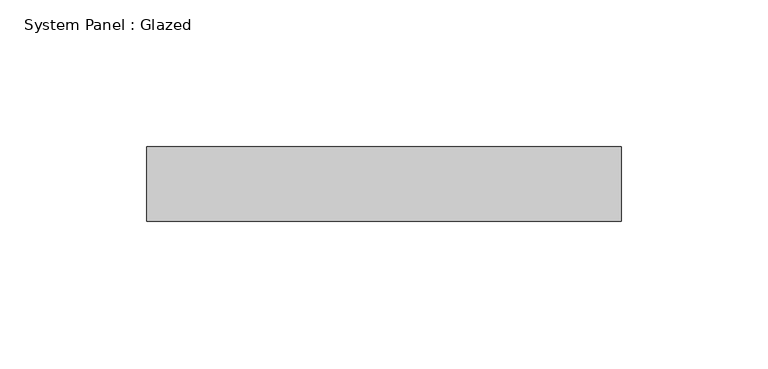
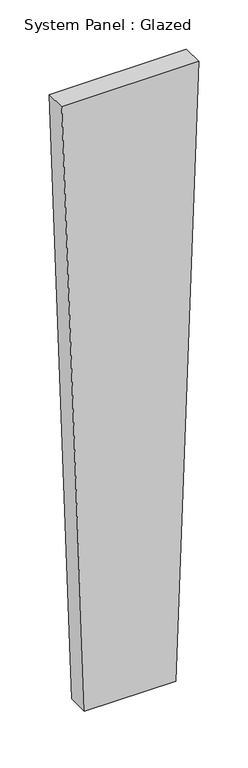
"""IFC4 building model written with IfcOpenShell, lengths in millimetres: plate geometry, System Panel : Glazed."""

from ifc_helpers import new_model, si_unit, frame, origin, place, context, project, spatial, polyline, outline, extrude, source, transform, mapped, element, save


def system_panel_glazed_b549858f(model_context):
    return source(origin(), model_context, "Body", "SweptSolid", [
        extrude(outline(polyline([(0.0, -53.8668869), (0.0, 53.8668869), (761.5238602, 80.8003303), (761.5238602, -80.8003303), (0.0, -53.8668869)])), frame((0.0, -44.45, 0.0), z_axis=(0.0, 1.0, 0.0), x_axis=(0.0, 0.0, 1.0)), (0.0, 0.0, 1.0), 25.4),
    ])


if __name__ == "__main__":
    model = new_model("IFC4")
    model_context = context("Model", 3, world=origin())
    ifc_project = project(units=[si_unit("LENGTHUNIT", "METRE", prefix="MILLI")], contexts=[model_context])
    site = spatial("IfcSite", under=ifc_project)
    building = spatial("IfcBuilding", under=site)
    placement = place(None, origin())
    system_panel_glazed_shape = system_panel_glazed_b549858f(model_context)
    element("IfcPlate", 1, ObjectType="System Panel : Glazed", at=placement, inside=building, context=model_context, shape_type="MappedRepresentation", body=[
        mapped(system_panel_glazed_shape, transform((0.0, 0.0, 0.0), x_axis=(1.0, 0.0, 0.0), y_axis=(0.0, 1.0, 0.0), z_axis=(0.0, 0.0, 1.0))),
    ])
    save(model, "model.ifc")
